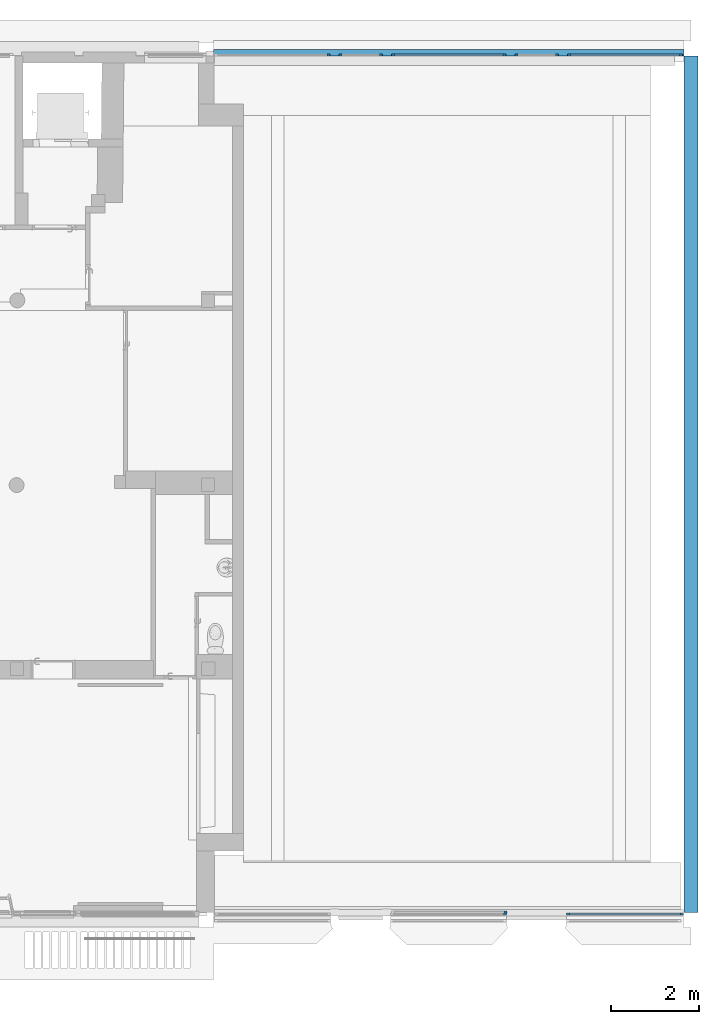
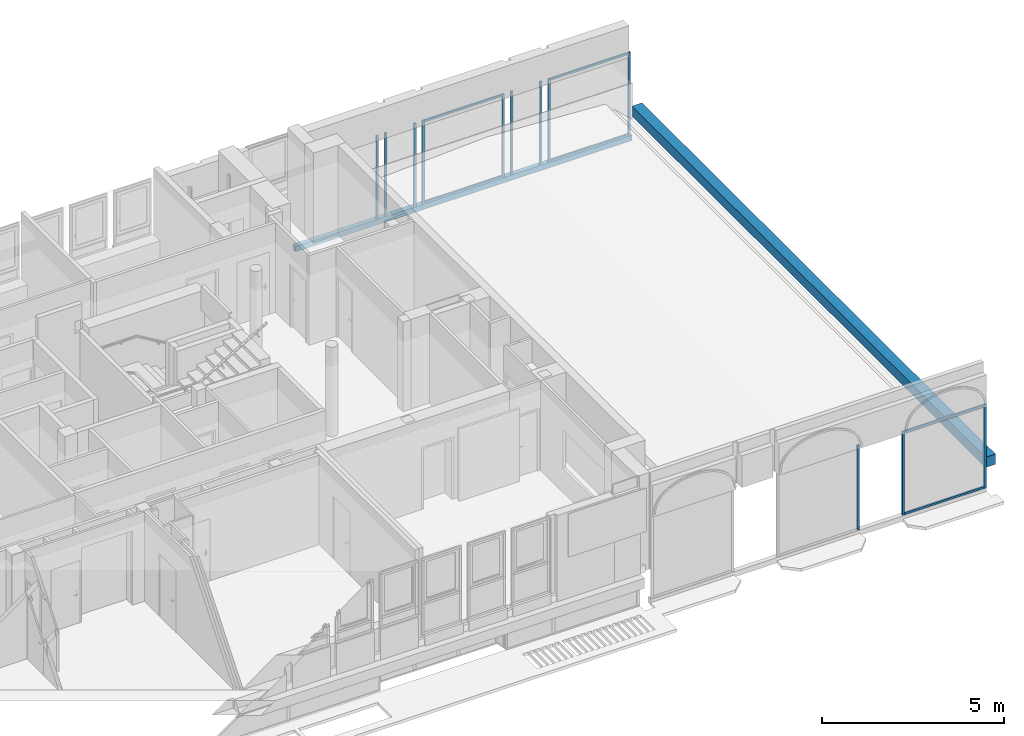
# One storey, part 13 of 97: 19 members, 2 beams, 8 elements without a shape of their own.
"""IFC4 building model written with IfcOpenShell, lengths in metres."""

from ifc_helpers import new_model, entity, si_unit, converted_unit, derived_unit, direction, frame, origin, place, context, subcontext, project, spatial, indexed_curve, outline, extrude, source, transform, mapped, material, type_object, type_shapes, element, aggregate, save


model = new_model("IFC4")

# Units and contexts
model_context = context("Model", 3, precision=1e-05, world=origin(), true_north=direction((6.12303176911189e-17, 1.0)))
body_context = subcontext(model_context, "Body", "Model", "MODEL_VIEW")
ifc_project = project(units=[si_unit("LENGTHUNIT", "METRE"), si_unit("AREAUNIT", "SQUARE_METRE"), si_unit("VOLUMEUNIT", "CUBIC_METRE"), converted_unit("PLANEANGLEUNIT", "DEGREE", entity("IfcRatioMeasure", 0.0174532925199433), si_unit("PLANEANGLEUNIT", "RADIAN"), dimensions=[0, 0, 0, 0, 0, 0, 0]), si_unit("MASSUNIT", "GRAM", prefix="KILO"), derived_unit("MASSDENSITYUNIT", [(si_unit("MASSUNIT", "GRAM", prefix="KILO"), 1), (si_unit("LENGTHUNIT", "METRE"), -3)]), derived_unit("MOMENTOFINERTIAUNIT", [(si_unit("LENGTHUNIT", "METRE"), 4)]), si_unit("TIMEUNIT", "SECOND"), si_unit("FREQUENCYUNIT", "HERTZ"), si_unit("THERMODYNAMICTEMPERATUREUNIT", "DEGREE_CELSIUS"), derived_unit("THERMALTRANSMITTANCEUNIT", [(si_unit("MASSUNIT", "GRAM", prefix="KILO"), 1), (si_unit("THERMODYNAMICTEMPERATUREUNIT", "KELVIN"), -1), (si_unit("TIMEUNIT", "SECOND"), -3)]), derived_unit("VOLUMETRICFLOWRATEUNIT", [(si_unit("LENGTHUNIT", "METRE"), 3), (si_unit("TIMEUNIT", "SECOND"), -1)]), si_unit("ELECTRICCURRENTUNIT", "AMPERE"), si_unit("ELECTRICVOLTAGEUNIT", "VOLT"), si_unit("POWERUNIT", "WATT"), si_unit("FORCEUNIT", "NEWTON", prefix="KILO"), si_unit("ILLUMINANCEUNIT", "LUX"), si_unit("LUMINOUSFLUXUNIT", "LUMEN"), si_unit("LUMINOUSINTENSITYUNIT", "CANDELA"), derived_unit("USERDEFINED", [(si_unit("MASSUNIT", "GRAM", prefix="KILO"), -1), (si_unit("LENGTHUNIT", "METRE"), -2), (si_unit("TIMEUNIT", "SECOND"), 3), (si_unit("LUMINOUSFLUXUNIT", "LUMEN"), 1)]), derived_unit("LINEARVELOCITYUNIT", [(si_unit("LENGTHUNIT", "METRE"), 1), (si_unit("TIMEUNIT", "SECOND"), -1)]), si_unit("PRESSUREUNIT", "PASCAL"), derived_unit("USERDEFINED", [(si_unit("LENGTHUNIT", "METRE"), -2), (si_unit("MASSUNIT", "GRAM", prefix="KILO"), 1), (si_unit("TIMEUNIT", "SECOND"), -2)]), derived_unit("LINEARFORCEUNIT", [(si_unit("MASSUNIT", "GRAM", prefix="KILO"), 1), (si_unit("LENGTHUNIT", "METRE"), 1), (si_unit("TIMEUNIT", "SECOND"), -2), (si_unit("LENGTHUNIT", "METRE"), -1)]), derived_unit("PLANARFORCEUNIT", [(si_unit("MASSUNIT", "GRAM", prefix="KILO"), 1), (si_unit("LENGTHUNIT", "METRE"), 1), (si_unit("TIMEUNIT", "SECOND"), -2), (si_unit("LENGTHUNIT", "METRE"), -2)])], contexts=[model_context])

# Site, building, storey
site_placement = place(None, origin())
site = spatial("IfcSite", under=ifc_project, at=site_placement, Name="Default", CompositionType="ELEMENT")
building_placement = place(site_placement, origin())
building = spatial("IfcBuilding", under=site, at=building_placement, Name="HOTEL CONSULAIRE BOULOGNE SUR MER", CompositionType="ELEMENT")
storey_placement = place(building_placement, frame((0.0, 0.0, 3.62152697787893)))
storey = spatial("IfcBuildingStorey", under=building, at=storey_placement, Name="Niveau 1", CompositionType="ELEMENT", Elevation=3.62152697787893)

# Curtain wall, members
curtain_wall_type = type_object("IfcCurtainWallType", Name="Mur-rideau:Simple panneau", PredefinedType="NOTDEFINED")
curtain_wall_1_placement = place(storey_placement, frame((0.0, 0.0, -3.62152697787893)))
curtain_wall_1 = element("IfcCurtainWall", 1, at=curtain_wall_1_placement, inside=storey, type_object=curtain_wall_type, Name="Mur-rideau:Simple panneau", ObjectType="Mur-rideau:Simple panneau", PredefinedType="NOTDEFINED")
ifc_material_1 = material(Name="alu finifion bleu")
member_type_1 = type_object("IfcMemberType", Name="Meneau rectangulaire:50 x 35 Alu bleu", PredefinedType="MULLION", material=ifc_material_1)
shared_shape_1 = source(origin(), body_context, "Body", "SweptSolid", [
    extrude(outline(indexed_curve([(-0.025, -0.035), (0.025, -0.035), (0.025, 0.035), (-0.025, 0.035), (-0.025, -0.035)], self_intersect=False)), frame((-0.035, -0.025, -2.52321473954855), z_axis=(0.0, 0.0, 1.0), x_axis=(0.0, -1.0, 0.0)), (0.0, 0.0, 1.0), 2.52321473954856),
])
type_shapes(member_type_1, [shared_shape_1])
member_1_placement = place(storey_placement, frame((22.2586382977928, -29.6140671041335, 1.60503552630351), z_axis=(1.0, 0.0, 0.0), x_axis=(0.0, 0.0, 1.0)))
member_1 = element("IfcMember", 2, at=member_1_placement, type_object=member_type_1, material=ifc_material_1, Name="Meneau rectangulaire:50 x 35 Alu bleu", ObjectType="Meneau rectangulaire:50 x 35 Alu bleu", PredefinedType="MULLION", context=body_context, shape_type="MappedRepresentation", body=[
    mapped(shared_shape_1, transform((0.0, 0.0, 0.0), scale=1.0)),
])
member_type_2 = type_object("IfcMemberType", Name="Meneau rectangulaire:50 x 35 Alu bleu", PredefinedType="MULLION", material=ifc_material_1)
shared_shape_2 = source(origin(), body_context, "Body", "SweptSolid", [
    extrude(outline(indexed_curve([(-0.025, -0.035), (0.025, -0.035), (0.025, 0.035), (-0.025, 0.035), (-0.025, -0.035)], self_intersect=False)), frame((-0.035, -0.025, -2.52321473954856), z_axis=(0.0, 0.0, 1.0), x_axis=(0.0, -1.0, 0.0)), (0.0, 0.0, 1.0), 2.52321473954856),
])
type_shapes(member_type_2, [shared_shape_2])
member_2_placement = place(storey_placement, frame((19.7354235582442, -29.6140671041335, -1.21), z_axis=(-1.0, 0.0, 0.0), x_axis=(0.0, 0.0, -1.0)))
member_2 = element("IfcMember", 3, at=member_2_placement, type_object=member_type_2, material=ifc_material_1, Name="Meneau rectangulaire:50 x 35 Alu bleu", ObjectType="Meneau rectangulaire:50 x 35 Alu bleu", PredefinedType="MULLION", context=body_context, shape_type="MappedRepresentation", body=[
    mapped(shared_shape_2, transform((0.0, 0.0, 0.0), scale=1.0)),
])

# Beams
ifc_material_2 = material(Name="Béton - Béton coulé sur place", Category="Béton")
beam_type_1 = type_object("IfcBeamType", Name="Poutre rectangulaire - Béton:320x340", PredefinedType="BEAM", material=ifc_material_2)
shared_shape_3 = source(origin(), body_context, "Body", "SweptSolid", [
    extrude(outline(indexed_curve([(-0.159999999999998, -0.17), (0.160000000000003, -0.17), (0.160000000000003, 0.17), (-0.159999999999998, 0.17), (-0.159999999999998, -0.17)], self_intersect=False)), frame((22.4986382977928, -29.5540671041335, 3.22112697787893), z_axis=(0.0, 1.0, 0.0), x_axis=(-1.0, 0.0, 0.0)), (0.0, 0.0, 1.0), 19.4694347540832),
])
type_shapes(beam_type_1, [shared_shape_3])
beam_1_placement = place(storey_placement, frame((0.0, 0.0, -3.62152697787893)))
element("IfcBeam", 4, at=beam_1_placement, inside=storey, type_object=beam_type_1, material=ifc_material_2, Name="Poutre rectangulaire - Béton:320x340", ObjectType="Poutre rectangulaire - Béton:320x340", PredefinedType="BEAM", context=body_context, shape_type="MappedRepresentation", body=[
    mapped(shared_shape_3, transform((0.0, 0.0, 0.0), scale=1.0)),
])
beam_type_2 = type_object("IfcBeamType", Name="Poutre rectangulaire - Béton:150X180", PredefinedType="BEAM", material=ifc_material_2)
shared_shape_4 = source(origin(), body_context, "Body", "SweptSolid", [
    extrude(outline(indexed_curve([(-0.0900000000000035, -0.0749999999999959), (0.0899999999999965, -0.0749999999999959), (0.0900000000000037, 0.0750000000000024), (-0.0899999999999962, 0.0750000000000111), (-0.0900000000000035, -0.0749999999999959)], self_intersect=False)), frame((11.6466382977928, -10.0096323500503, 2.32152697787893), z_axis=(1.0, 0.0, 0.0), x_axis=(0.0, 0.0, -1.0)), (0.0, 0.0, 1.0), 10.6903810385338),
])
type_shapes(beam_type_2, [shared_shape_4])
beam_2_placement = place(storey_placement, frame((0.0, 0.0, -3.62152697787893)))
element("IfcBeam", 5, at=beam_2_placement, inside=storey, type_object=beam_type_2, material=ifc_material_2, Name="Poutre rectangulaire - Béton:150X180", ObjectType="Poutre rectangulaire - Béton:150X180", PredefinedType="BEAM", context=body_context, shape_type="MappedRepresentation", body=[
    mapped(shared_shape_4, transform((0.0, 0.0, 0.0), scale=1.0)),
])

# Curtain wall, member
curtain_wall_2_placement = place(storey_placement, frame((0.0, 0.0, -3.62152697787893)))
curtain_wall_2 = element("IfcCurtainWall", 6, at=curtain_wall_2_placement, inside=storey, type_object=curtain_wall_type, Name="Mur-rideau:Simple panneau", ObjectType="Mur-rideau:Simple panneau", PredefinedType="NOTDEFINED")
ifc_material_3 = material(Name="PVC - Blanc", Category="Plastique")
member_type_3 = type_object("IfcMemberType", Name="Meneau rectangulaire:50 x 35", PredefinedType="MULLION", material=ifc_material_3)
shared_shape_5 = source(origin(), body_context, "Body", "SweptSolid", [
    extrude(outline(indexed_curve([(-0.025, -0.035), (0.025, -0.035), (0.025, 0.035), (-0.025, 0.035), (-0.025, -0.035)], self_intersect=False)), frame((-0.035, -0.025, -2.80936343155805), z_axis=(0.0, 0.0, 1.0), x_axis=(0.0, -1.0, 0.0)), (0.0, 0.0, 1.0), 2.80936343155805),
])
type_shapes(member_type_3, [shared_shape_5])
member_3_placement = place(storey_placement, frame((22.3027413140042, -10.0330173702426, 1.59936343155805)))
member_3 = element("IfcMember", 7, at=member_3_placement, type_object=member_type_3, material=ifc_material_3, Name="Meneau rectangulaire:50 x 35", ObjectType="Meneau rectangulaire:50 x 35", PredefinedType="MULLION", context=body_context, shape_type="MappedRepresentation", body=[
    mapped(shared_shape_5, transform((0.0, 0.0, 0.0), scale=1.0)),
])

curtain_wall_3_placement = place(storey_placement, frame((0.0, 0.0, -3.62152697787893)))
curtain_wall_3 = element("IfcCurtainWall", 8, at=curtain_wall_3_placement, inside=storey, type_object=curtain_wall_type, Name="Mur-rideau:Simple panneau", ObjectType="Mur-rideau:Simple panneau", PredefinedType="NOTDEFINED")
member_4_placement = place(storey_placement, frame((14.2930366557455, -10.0330173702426, 1.59936343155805)))
member_4 = element("IfcMember", 9, at=member_4_placement, type_object=member_type_3, material=ifc_material_3, Name="Meneau rectangulaire:50 x 35", ObjectType="Meneau rectangulaire:50 x 35", PredefinedType="MULLION", context=body_context, shape_type="MappedRepresentation", body=[
    mapped(shared_shape_5, transform((0.0, 0.0, 0.0), scale=1.0)),
])
aggregate(curtain_wall_3, [member_4])

curtain_wall_4_placement = place(storey_placement, frame((0.0, 0.0, -3.62152697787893)))
curtain_wall_4 = element("IfcCurtainWall", 10, at=curtain_wall_4_placement, inside=storey, type_object=curtain_wall_type, Name="Mur-rideau:Simple panneau", ObjectType="Mur-rideau:Simple panneau", PredefinedType="NOTDEFINED")
member_5_placement = place(storey_placement, frame((15.4875451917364, -10.0330173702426, 1.59936343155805)))
member_5 = element("IfcMember", 11, at=member_5_placement, type_object=member_type_3, material=ifc_material_3, Name="Meneau rectangulaire:50 x 35", ObjectType="Meneau rectangulaire:50 x 35", PredefinedType="MULLION", context=body_context, shape_type="MappedRepresentation", body=[
    mapped(shared_shape_5, transform((0.0, 0.0, 0.0), scale=1.0)),
])

curtain_wall_5_placement = place(storey_placement, frame((0.0, 0.0, -3.62152697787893)))
curtain_wall_5 = element("IfcCurtainWall", 12, at=curtain_wall_5_placement, inside=storey, type_object=curtain_wall_type, Name="Mur-rideau:Simple panneau", ObjectType="Mur-rideau:Simple panneau", PredefinedType="NOTDEFINED")
member_6_placement = place(storey_placement, frame((18.2910544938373, -10.0330173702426, 1.59936343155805)))
member_6 = element("IfcMember", 13, at=member_6_placement, type_object=member_type_3, material=ifc_material_3, Name="Meneau rectangulaire:50 x 35", ObjectType="Meneau rectangulaire:50 x 35", PredefinedType="MULLION", context=body_context, shape_type="MappedRepresentation", body=[
    mapped(shared_shape_5, transform((0.0, 0.0, 0.0), scale=1.0)),
])

curtain_wall_6_placement = place(storey_placement, frame((0.0, 0.0, -3.62152697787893)))
curtain_wall_6 = element("IfcCurtainWall", 14, at=curtain_wall_6_placement, inside=storey, type_object=curtain_wall_type, Name="Mur-rideau:Simple panneau", ObjectType="Mur-rideau:Simple panneau", PredefinedType="NOTDEFINED")
member_7_placement = place(storey_placement, frame((19.4895800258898, -10.0330173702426, 1.59936343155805)))
member_7 = element("IfcMember", 15, at=member_7_placement, type_object=member_type_3, material=ifc_material_3, Name="Meneau rectangulaire:50 x 35", ObjectType="Meneau rectangulaire:50 x 35", PredefinedType="MULLION", context=body_context, shape_type="MappedRepresentation", body=[
    mapped(shared_shape_5, transform((0.0, 0.0, 0.0), scale=1.0)),
])

# Member
member_type_4 = type_object("IfcMemberType", Name="Meneau rectangulaire:50 x 35", PredefinedType="MULLION", material=ifc_material_3)
shared_shape_6 = source(origin(), body_context, "Body", "SweptSolid", [
    extrude(outline(indexed_curve([(-0.025, -0.035), (0.025, -0.035), (0.025, 0.035), (-0.025, 0.035), (-0.025, -0.035)], self_intersect=False)), frame((-0.035, -0.025, -2.47316128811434), z_axis=(0.0, 0.0, 1.0), x_axis=(0.0, -1.0, 0.0)), (0.0, 0.0, 1.0), 2.47316128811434),
])
type_shapes(member_type_4, [shared_shape_6])
member_8_placement = place(storey_placement, frame((19.7595800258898, -10.0330173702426, 1.59936343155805), z_axis=(-1.0, 0.0, 0.0), x_axis=(0.0, 0.0, 1.0)))
member_8 = element("IfcMember", 16, at=member_8_placement, type_object=member_type_4, material=ifc_material_3, Name="Meneau rectangulaire:50 x 35", ObjectType="Meneau rectangulaire:50 x 35", PredefinedType="MULLION", context=body_context, shape_type="MappedRepresentation", body=[
    mapped(shared_shape_6, transform((0.0, 0.0, 0.0), scale=1.0)),
])

member_type_5 = type_object("IfcMemberType", Name="Meneau rectangulaire:50 x 35", PredefinedType="MULLION", material=ifc_material_3)
shared_shape_7 = source(origin(), body_context, "Body", "SweptSolid", [
    extrude(outline(indexed_curve([(-0.025, -0.035), (0.025, -0.035), (0.025, 0.035), (-0.025, 0.035), (-0.025, -0.035)], self_intersect=False)), frame((-0.035, -0.025, -2.80936343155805), z_axis=(0.0, 0.0, 1.0), x_axis=(0.0, -1.0, 0.0)), (0.0, 0.0, 1.0), 2.80936343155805),
])
type_shapes(member_type_5, [shared_shape_7])
member_9_placement = place(storey_placement, frame((19.6895800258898, -10.0330173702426, -1.21), z_axis=(0.0, 0.0, -1.0), x_axis=(-1.0, 0.0, 0.0)))
member_9 = element("IfcMember", 17, at=member_9_placement, type_object=member_type_5, material=ifc_material_3, Name="Meneau rectangulaire:50 x 35", ObjectType="Meneau rectangulaire:50 x 35", PredefinedType="MULLION", context=body_context, shape_type="MappedRepresentation", body=[
    mapped(shared_shape_7, transform((0.0, 0.0, 0.0), scale=1.0)),
])

member_10_placement = place(storey_placement, frame((14.4930366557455, -10.0330173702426, -1.21), z_axis=(0.0, 0.0, -1.0), x_axis=(-1.0, 0.0, 0.0)))
member_10 = element("IfcMember", 18, at=member_10_placement, type_object=member_type_5, material=ifc_material_3, Name="Meneau rectangulaire:50 x 35", ObjectType="Meneau rectangulaire:50 x 35", PredefinedType="MULLION", context=body_context, shape_type="MappedRepresentation", body=[
    mapped(shared_shape_7, transform((0.0, 0.0, 0.0), scale=1.0)),
])

aggregate(curtain_wall_4, [member_5, member_10])

member_11_placement = place(storey_placement, frame((15.6875451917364, -10.0330173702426, -1.21), z_axis=(0.0, 0.0, -1.0), x_axis=(-1.0, 0.0, 0.0)))
member_11 = element("IfcMember", 19, at=member_11_placement, type_object=member_type_5, material=ifc_material_3, Name="Meneau rectangulaire:50 x 35", ObjectType="Meneau rectangulaire:50 x 35", PredefinedType="MULLION", context=body_context, shape_type="MappedRepresentation", body=[
    mapped(shared_shape_7, transform((0.0, 0.0, 0.0), scale=1.0)),
])

member_12_placement = place(storey_placement, frame((18.4910544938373, -10.0330173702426, -1.21), z_axis=(0.0, 0.0, -1.0), x_axis=(-1.0, 0.0, 0.0)))
member_12 = element("IfcMember", 20, at=member_12_placement, type_object=member_type_5, material=ifc_material_3, Name="Meneau rectangulaire:50 x 35", ObjectType="Meneau rectangulaire:50 x 35", PredefinedType="MULLION", context=body_context, shape_type="MappedRepresentation", body=[
    mapped(shared_shape_7, transform((0.0, 0.0, 0.0), scale=1.0)),
])

aggregate(curtain_wall_6, [member_7, member_12])

member_type_6 = type_object("IfcMemberType", Name="Meneau rectangulaire:50 x 35", PredefinedType="MULLION", material=ifc_material_3)
shared_shape_8 = source(origin(), body_context, "Body", "SweptSolid", [
    extrude(outline(indexed_curve([(-0.025, -0.035), (0.025, -0.035), (0.025, 0.035), (-0.025, 0.035), (-0.025, -0.035)], self_intersect=False)), frame((-0.035, -0.025, -2.47316128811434), z_axis=(0.0, 0.0, 1.0), x_axis=(0.0, -1.0, 0.0)), (0.0, 0.0, 1.0), 2.47316128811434),
])
type_shapes(member_type_6, [shared_shape_8])
member_13_placement = place(storey_placement, frame((22.2327413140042, -10.0330173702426, -1.21), z_axis=(1.0, 0.0, 0.0), x_axis=(0.0, 0.0, -1.0)))
member_13 = element("IfcMember", 21, at=member_13_placement, type_object=member_type_6, material=ifc_material_3, Name="Meneau rectangulaire:50 x 35", ObjectType="Meneau rectangulaire:50 x 35", PredefinedType="MULLION", context=body_context, shape_type="MappedRepresentation", body=[
    mapped(shared_shape_8, transform((0.0, 0.0, 0.0), scale=1.0)),
])

aggregate(curtain_wall_2, [member_3, member_8, member_9, member_13])

member_type_7 = type_object("IfcMemberType", Name="Meneau rectangulaire:50 x 35", PredefinedType="MULLION", material=ifc_material_3)
shared_shape_9 = source(origin(), body_context, "Body", "SweptSolid", [
    extrude(outline(indexed_curve([(-0.025, -0.035), (0.025, -0.035), (0.025, 0.035), (-0.025, 0.035), (-0.025, -0.035)], self_intersect=False)), frame((-0.035, -0.025, -2.4635093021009), z_axis=(0.0, 0.0, 1.0), x_axis=(0.0, -1.0, 0.0)), (0.0, 0.0, 1.0), 2.46350930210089),
])
type_shapes(member_type_7, [shared_shape_9])
member_14_placement = place(storey_placement, frame((15.7575451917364, -10.0330173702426, 1.59936343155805), z_axis=(-1.0, 0.0, 0.0), x_axis=(0.0, 0.0, 1.0)))
member_14 = element("IfcMember", 22, at=member_14_placement, type_object=member_type_7, material=ifc_material_3, Name="Meneau rectangulaire:50 x 35", ObjectType="Meneau rectangulaire:50 x 35", PredefinedType="MULLION", context=body_context, shape_type="MappedRepresentation", body=[
    mapped(shared_shape_9, transform((0.0, 0.0, 0.0), scale=1.0)),
])

member_type_8 = type_object("IfcMemberType", Name="Meneau rectangulaire:50 x 35", PredefinedType="MULLION", material=ifc_material_3)
shared_shape_10 = source(origin(), body_context, "Body", "SweptSolid", [
    extrude(outline(indexed_curve([(-0.025, -0.035), (0.025, -0.035), (0.025, 0.035), (-0.025, 0.035), (-0.025, -0.035)], self_intersect=False)), frame((-0.035, -0.025, -2.46350930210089), z_axis=(0.0, 0.0, 1.0), x_axis=(0.0, -1.0, 0.0)), (0.0, 0.0, 1.0), 2.46350930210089),
])
type_shapes(member_type_8, [shared_shape_10])
member_15_placement = place(storey_placement, frame((18.2210544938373, -10.0330173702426, -1.21), z_axis=(1.0, 0.0, 0.0), x_axis=(0.0, 0.0, -1.0)))
member_15 = element("IfcMember", 23, at=member_15_placement, type_object=member_type_8, material=ifc_material_3, Name="Meneau rectangulaire:50 x 35", ObjectType="Meneau rectangulaire:50 x 35", PredefinedType="MULLION", context=body_context, shape_type="MappedRepresentation", body=[
    mapped(shared_shape_10, transform((0.0, 0.0, 0.0), scale=1.0)),
])

aggregate(curtain_wall_5, [member_6, member_14, member_11, member_15])

member_type_9 = type_object("IfcMemberType", Name="Meneau rectangulaire:50 x 35 Alu bleu", PredefinedType="MULLION", material=ifc_material_1)
shared_shape_11 = source(origin(), body_context, "Body", "SweptSolid", [
    extrude(outline(indexed_curve([(-0.025, -0.035), (0.025, -0.035), (0.025, 0.035), (-0.025, 0.035), (-0.025, -0.035)], self_intersect=False)), frame((-0.035, -0.025, -2.81503552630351), z_axis=(0.0, 0.0, 1.0), x_axis=(0.0, -1.0, 0.0)), (0.0, 0.0, 1.0), 2.81503552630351),
])
type_shapes(member_type_9, [shared_shape_11])
member_16_placement = place(storey_placement, frame((19.6654235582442, -29.6140671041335, 1.60503552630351), z_axis=(0.0, 0.0, 1.0), x_axis=(-1.0, 0.0, 0.0)))
member_16 = element("IfcMember", 24, at=member_16_placement, type_object=member_type_9, material=ifc_material_1, Name="Meneau rectangulaire:50 x 35 Alu bleu", ObjectType="Meneau rectangulaire:50 x 35 Alu bleu", PredefinedType="MULLION", context=body_context, shape_type="MappedRepresentation", body=[
    mapped(shared_shape_11, transform((0.0, 0.0, 0.0), scale=1.0)),
])

# Curtain wall, member
curtain_wall_7_placement = place(storey_placement, frame((0.0, 0.0, -3.62152697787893)))
curtain_wall_7 = element("IfcCurtainWall", 25, at=curtain_wall_7_placement, inside=storey, type_object=curtain_wall_type, Name="Mur-rideau:Simple panneau", ObjectType="Mur-rideau:Simple panneau", PredefinedType="NOTDEFINED")
member_type_10 = type_object("IfcMemberType", Name="Meneau rectangulaire:50 x 35 Alu bleu", PredefinedType="MULLION", material=ifc_material_1)
shared_shape_12 = source(origin(), body_context, "Body", "SweptSolid", [
    extrude(outline(indexed_curve([(-0.025, -0.035), (0.025, -0.035), (0.025, 0.035), (-0.025, 0.035), (-0.025, -0.035)], self_intersect=False)), frame((-0.035, -0.025, -2.81503552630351), z_axis=(0.0, 0.0, 1.0), x_axis=(0.0, -1.0, 0.0)), (0.0, 0.0, 1.0), 2.81503552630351),
])
type_shapes(member_type_10, [shared_shape_12])
member_17_placement = place(storey_placement, frame((18.3034778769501, -29.6140671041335, -1.21), z_axis=(0.0, 0.0, -1.0), x_axis=(1.0, 0.0, 0.0)))
member_17 = element("IfcMember", 26, at=member_17_placement, type_object=member_type_10, material=ifc_material_1, Name="Meneau rectangulaire:50 x 35 Alu bleu", ObjectType="Meneau rectangulaire:50 x 35 Alu bleu", PredefinedType="MULLION", context=body_context, shape_type="MappedRepresentation", body=[
    mapped(shared_shape_12, transform((0.0, 0.0, 0.0), scale=1.0)),
])
aggregate(curtain_wall_7, [member_17])

# Member
member_18_placement = place(storey_placement, frame((22.3286382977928, -29.6140671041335, -1.21), z_axis=(0.0, 0.0, -1.0), x_axis=(1.0, 0.0, 0.0)))
member_18 = element("IfcMember", 27, at=member_18_placement, type_object=member_type_10, material=ifc_material_1, Name="Meneau rectangulaire:50 x 35 Alu bleu", ObjectType="Meneau rectangulaire:50 x 35 Alu bleu", PredefinedType="MULLION", context=body_context, shape_type="MappedRepresentation", body=[
    mapped(shared_shape_12, transform((0.0, 0.0, 0.0), scale=1.0)),
])

aggregate(curtain_wall_1, [member_16, member_1, member_18, member_2])

# Curtain wall, member
curtain_wall_8_placement = place(storey_placement, frame((0.0, 0.0, -3.62152697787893)))
curtain_wall_8 = element("IfcCurtainWall", 28, at=curtain_wall_8_placement, inside=storey, type_object=curtain_wall_type, Name="Mur-rideau:Simple panneau", ObjectType="Mur-rideau:Simple panneau", PredefinedType="NOTDEFINED")
member_19_placement = place(storey_placement, frame((18.3177848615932, -29.5740671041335, -1.21), z_axis=(0.0, 0.0, -1.0), x_axis=(1.0, 0.0, 0.0)))
member_19 = element("IfcMember", 29, at=member_19_placement, type_object=member_type_10, material=ifc_material_1, Name="Meneau rectangulaire:50 x 35 Alu bleu", ObjectType="Meneau rectangulaire:50 x 35 Alu bleu", PredefinedType="MULLION", context=body_context, shape_type="MappedRepresentation", body=[
    mapped(shared_shape_12, transform((0.0, 0.0, 0.0), scale=1.0)),
])
aggregate(curtain_wall_8, [member_19])

save(model, "model.ifc")
